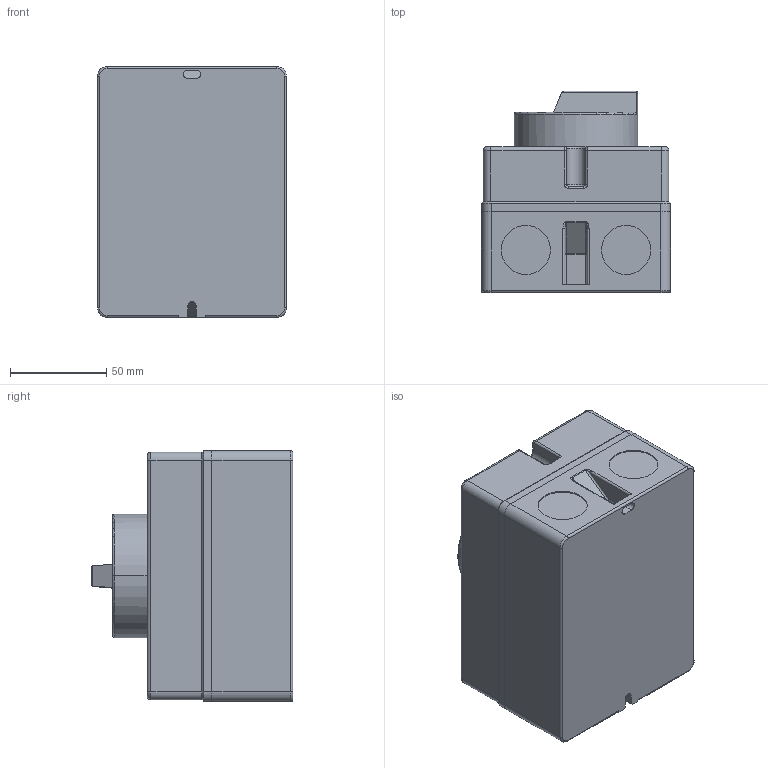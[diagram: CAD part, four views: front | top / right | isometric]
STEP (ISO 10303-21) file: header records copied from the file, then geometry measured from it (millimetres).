
FILE_DESCRIPTION (( 'STEP AP203' ), '1' );
FILE_NAME ('LTS20_25_32_40 PFHN4 A3.STEP', '2014-05-16T07:17:53', ( '' ), ( '' ), 'SwSTEP 2.0', 'SolidWorks 2014', '' );
FILE_SCHEMA (( 'CONFIG_CONTROL_DESIGN' ));
Length unit declared in the file: millimetre
Products named in the file (4): Unterteil_Gehäuse_LTS_PF1; Oberteil_LTS_PF1; SV4_64x64_nur griff; LTS20_25_32_40 PFHN4 A3
Assembly tree (3 placements, depth 2):
  LTS20_25_32_40 PFHN4 A3
    Unterteil_Gehäuse_LTS_PF1
    Oberteil_LTS_PF1
    SV4_64x64_nur griff
Bounding box: 98 x 104.4 x 130 mm (x, y, z)
Volume: 975335.5 mm3; surface area: 101222.1 mm2
Topology: 3 solids, 3 shells, 174 faces, 419 edges, 256 vertices
Faces by surface type: cylinder 79, plane 57, torus 24, bspline 6, sphere 4, cone 4
Entity records: 5703 total; most frequent: CARTESIAN_POINT 1234, DIRECTION 899, ORIENTED_EDGE 838, EDGE_CURVE 419, AXIS2_PLACEMENT_3D 349, VERTEX_POINT 256, LINE 201, VECTOR 201
